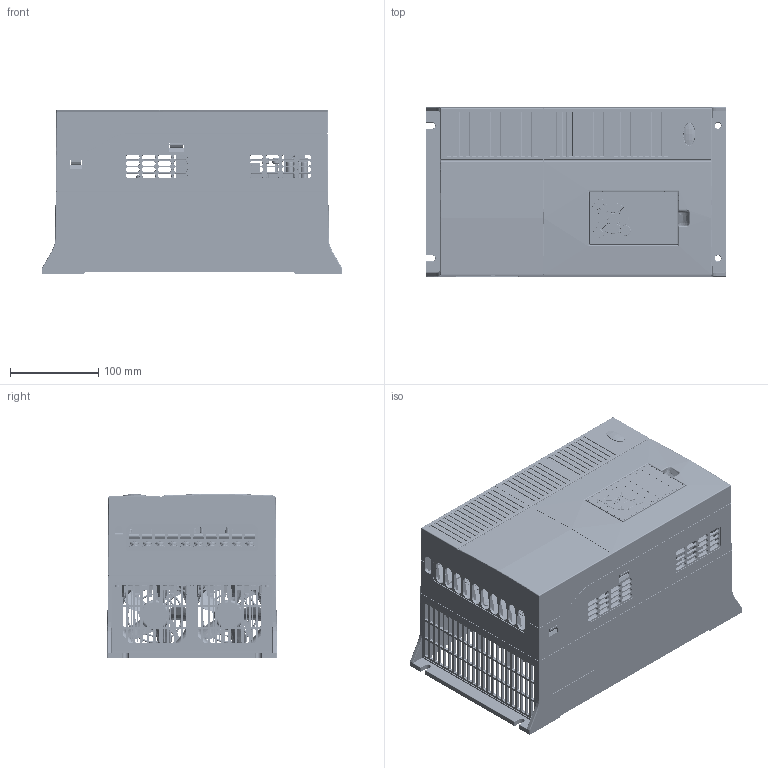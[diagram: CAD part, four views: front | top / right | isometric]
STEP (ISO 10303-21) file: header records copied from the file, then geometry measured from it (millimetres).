
FILE_DESCRIPTION((''),'2;1');
FILE_NAME('304_ASM','2025-09-25T13:57:39',('L90915'),(''),'CREO PARAMETRIC BY PTC INC, 2018190','CREO PARAMETRIC BY PTC INC, 2018190','');
FILE_SCHEMA(('CONFIG_CONTROL_DESIGN'));
Products named in the file (34): 304MP01; 304MP02; 304MP03; 304MP04; 304A-KT_ASM; 304MH03; 304MS15; BSM50GP120; 304PM02-B; DZ-M5X16; GAI; 304PM02_ASM; 304PC02; 302PU01-F; 305PI01-D; M4-10; 304PA02_ASM; 8025; 8025-WZ; M4R8-9R5ST; M4-35; ADT-LOGO-M; M3-5X9-5; M3-5X16; M3-8; M5-16; LED-DZ; 304MA10_ASM; 302MP01; 302MP02; 302PK01; 302ME01; 302MA01_ASM; 304_ASM
Assembly tree (70 placements, depth 4):
  304_ASM
    304A-KT_ASM
      304MP01
      304MP02
      304MP03
      304MP04
    304MH03
    304MS15
    304PA02_ASM
      BSM50GP120
      304PM02_ASM
        304PM02-B
        DZ-M5X16  x10
        GAI
      304PC02
      302PU01-F
      305PI01-D
      M4-10  x4
    304MA10_ASM
      8025  x2
      8025-WZ  x2
      M4R8-9R5ST  x4
      M4-35  x4
      ADT-LOGO-M
      M3-5X9-5  x8
      M3-5X16  x8
      M3-8
      M5-16  x4
      LED-DZ
    302MA01_ASM
      302MP01
      302MP02
      302PK01
      302ME01
Bounding box: 340 x 192 x 185.7 mm (x, y, z)
Volume: 2210707.3 mm3; surface area: 1876506.3 mm2
Topology: 83 solids, 86 shells, 12816 faces, 34243 edges, 22166 vertices
Faces by surface type: plane 7950, cylinder 3077, torus 543, bspline 525, cone 464, sphere 124, extrusion 77, revolution 56
Entity records: 363900 total; most frequent: CARTESIAN_POINT 85017, ORIENTED_EDGE 59484, DIRECTION 55086, EDGE_CURVE 29742, VECTOR 21504, LINE 21427, VERTEX_POINT 19384, AXIS2_PLACEMENT_3D 16786
